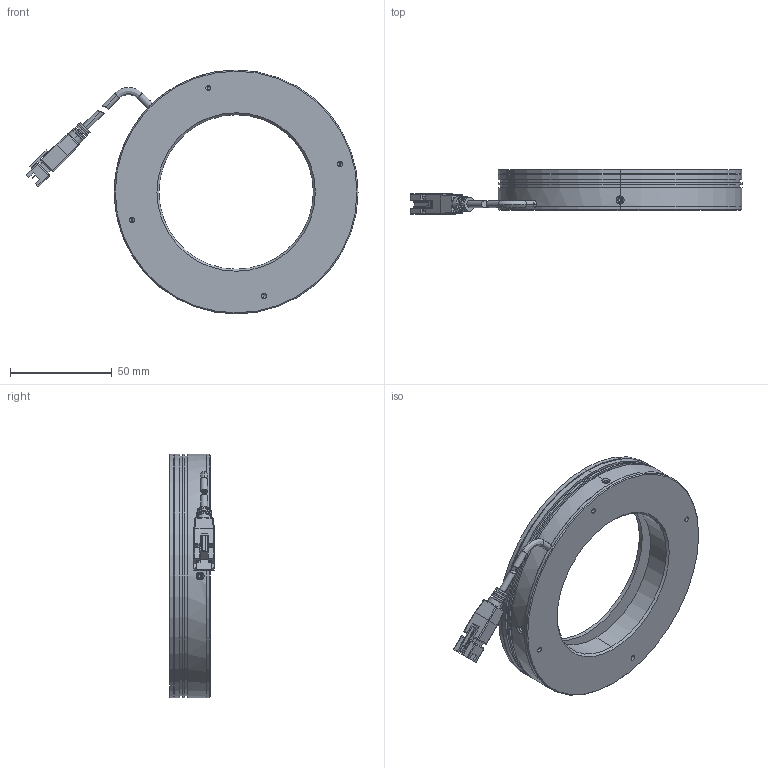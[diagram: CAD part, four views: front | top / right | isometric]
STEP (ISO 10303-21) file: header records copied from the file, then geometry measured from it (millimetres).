
FILE_DESCRIPTION (( 'STEP AP203' ), '1' );
FILE_NAME ('12090-00軞蚾.STEP', '2026-03-13T08:44:35', ( '' ), ( '' ), 'SwSTEP 2.0', 'SolidWorks 2022', '' );
FILE_SCHEMA (( 'CONFIG_CONTROL_DESIGN' ));
Length unit declared in the file: millimetre
Products named in the file (6): 光源线; 12090灯珠-00; 12090-00总装; 12090-001; 12090 漫射板; 12090-002
Assembly tree (5 placements, depth 2):
  12090-00总装
    12090 漫射板
    12090-001
    12090-002
    光源线
    12090灯珠-00
Bounding box: 163.46 x 22.06 x 120 mm (x, y, z)
Volume: 82149.2 mm3; surface area: 63803.4 mm2
Topology: 7 solids, 7 shells, 380 faces, 929 edges, 558 vertices
Faces by surface type: cylinder 139, plane 139, cone 58, torus 24, bspline 20
Entity records: 12391 total; most frequent: CARTESIAN_POINT 2951, DIRECTION 1899, ORIENTED_EDGE 1786, EDGE_CURVE 893, AXIS2_PLACEMENT_3D 720, VERTEX_POINT 558, VECTOR 459, LINE 459
